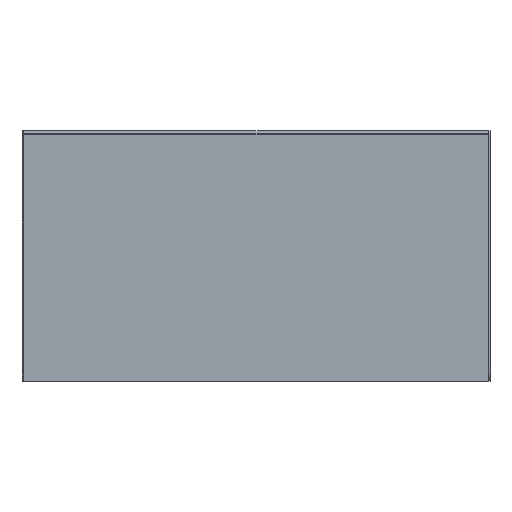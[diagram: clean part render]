
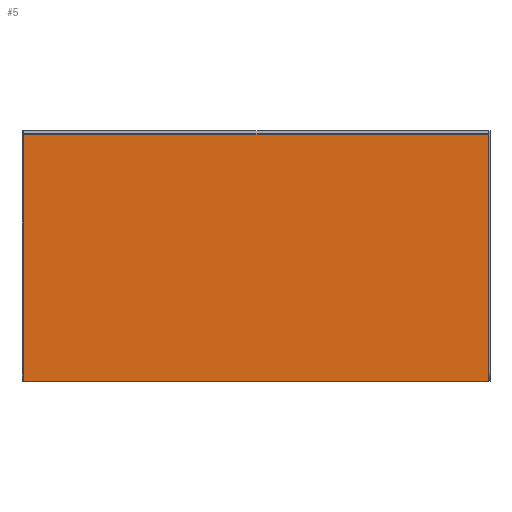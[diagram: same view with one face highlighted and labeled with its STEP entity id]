
A CAD part, front view. The second image highlights one B-rep face of the part: STEP entity #5.
In plain terms, the highlighted planar face has unit normal (0, -1, 0).
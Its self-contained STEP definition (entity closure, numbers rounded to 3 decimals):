
#5 = ADVANCED_FACE ( 'NONE', ( #713 ), #1486, .T. ) ;
#23 = VERTEX_POINT ( 'NONE', #440 ) ;
#80 = DIRECTION ( 'NONE',  ( -1., 0., 0. ) ) ;
#144 = VECTOR ( 'NONE', #1349, 1000. ) ;
#163 = LINE ( 'NONE', #1401, #449 ) ;
#256 = VECTOR ( 'NONE', #390, 1000. ) ;
#297 = DIRECTION ( 'NONE',  ( 0., 0., -1. ) ) ;
#299 = LINE ( 'NONE', #1514, #144 ) ;
#370 = ORIENTED_EDGE ( 'NONE', *, *, #1625, .F. ) ;
#390 = DIRECTION ( 'NONE',  ( 0., 0., 1. ) ) ;
#439 = EDGE_CURVE ( 'NONE', #804, #23, #163, .T. ) ;
#440 = CARTESIAN_POINT ( 'NONE',  ( -647., -17.5, -347. ) ) ;
#449 = VECTOR ( 'NONE', #80, 1000. ) ;
#529 = VERTEX_POINT ( 'NONE', #740 ) ;
#692 = CARTESIAN_POINT ( 'NONE',  ( 647., -17.5, 347. ) ) ;
#713 = FACE_OUTER_BOUND ( 'NONE', #1437, .T. ) ;
#740 = CARTESIAN_POINT ( 'NONE',  ( -647., -17.5, 347. ) ) ;
#760 = CARTESIAN_POINT ( 'NONE',  ( 647., -17.5, -347. ) ) ;
#791 = DIRECTION ( 'NONE',  ( 1., 0., 0. ) ) ;
#804 = VERTEX_POINT ( 'NONE', #760 ) ;
#1114 = EDGE_CURVE ( 'NONE', #23, #529, #1217, .T. ) ;
#1217 = LINE ( 'NONE', #1602, #256 ) ;
#1234 = AXIS2_PLACEMENT_3D ( 'NONE', #1492, #1253, #297 ) ;
#1237 = ORIENTED_EDGE ( 'NONE', *, *, #1491, .F. ) ;
#1253 = DIRECTION ( 'NONE',  ( 0., -1., 0. ) ) ;
#1299 = LINE ( 'NONE', #1591, #1370 ) ;
#1349 = DIRECTION ( 'NONE',  ( 0., 0., -1. ) ) ;
#1370 = VECTOR ( 'NONE', #791, 1000. ) ;
#1383 = ORIENTED_EDGE ( 'NONE', *, *, #1114, .F. ) ;
#1401 = CARTESIAN_POINT ( 'NONE',  ( -647., -17.5, -347. ) ) ;
#1437 = EDGE_LOOP ( 'NONE', ( #370, #1237, #1383, #1709 ) ) ;
#1486 = PLANE ( 'NONE',  #1234 ) ;
#1491 = EDGE_CURVE ( 'NONE', #529, #1629, #1299, .T. ) ;
#1492 = CARTESIAN_POINT ( 'NONE',  ( 0., -17.5, 0. ) ) ;
#1514 = CARTESIAN_POINT ( 'NONE',  ( 647., -17.5, 347. ) ) ;
#1591 = CARTESIAN_POINT ( 'NONE',  ( -647., -17.5, 347. ) ) ;
#1602 = CARTESIAN_POINT ( 'NONE',  ( -647., -17.5, 347. ) ) ;
#1625 = EDGE_CURVE ( 'NONE', #1629, #804, #299, .T. ) ;
#1629 = VERTEX_POINT ( 'NONE', #692 ) ;
#1709 = ORIENTED_EDGE ( 'NONE', *, *, #439, .F. ) ;
